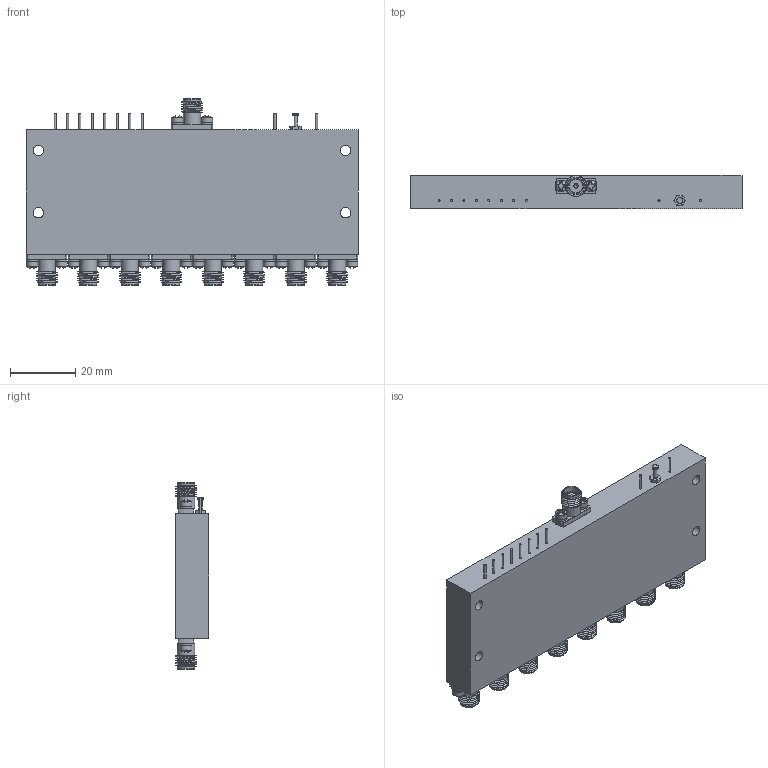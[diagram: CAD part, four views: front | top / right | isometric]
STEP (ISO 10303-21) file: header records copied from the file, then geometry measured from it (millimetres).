
FILE_DESCRIPTION (( 'STEP AP214' ), '1' );
FILE_NAME ('P8T-100M40G-85-T-512-292FF-ROHS.STEP', '2024-10-30T20:06:48', ( '' ), ( '' ), 'SwSTEP 2.0', 'SolidWorks 2024', '' );
FILE_SCHEMA (( 'AUTOMOTIVE_DESIGN' ));
Length unit declared in the file: inch
Products named in the file (1): P8T-100M40G-85-T-512-292FF-ROHS
Bounding box: 101.6 x 10.34 x 57.15 mm (x, y, z)
Volume: 42326.3 mm3; surface area: 23641.8 mm2
Topology: 67 solids, 67 shells, 1595 faces, 5198 edges, 4080 vertices
Faces by surface type: plane 887, cylinder 304, torus 217, cone 115, sphere 42, bspline 30
Full cylindrical faces by diameter (mm): 0.305 x9, 0.381 x9, 0.635 x10, 1.016 x18, 1.067 x1, 1.27 x18, 1.93 x1, 2.184 x19, 2.591 x18, 3.175 x4, 3.302 x9, 3.556 x18, 4.191 x18, 4.597 x9, 5.283 x18
Entity records: 93372 total; most frequent: CARTESIAN_POINT 29894, ORIENTED_EDGE 9480, DIRECTION 7932, EDGE_CURVE 4740, VERTEX_POINT 4025, AXIS2_PLACEMENT_3D 2859, EDGE_LOOP 2385, VECTOR 2214
